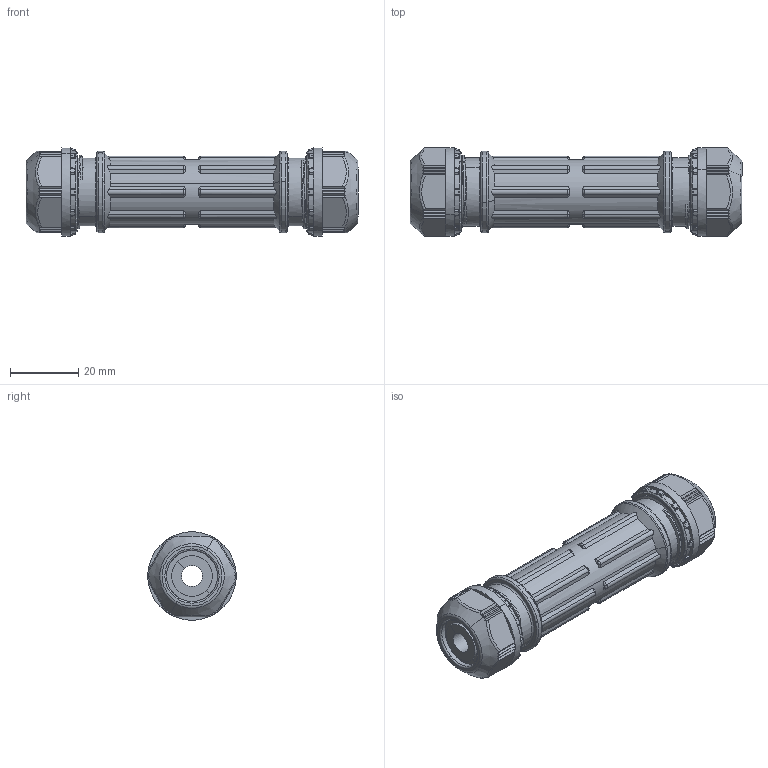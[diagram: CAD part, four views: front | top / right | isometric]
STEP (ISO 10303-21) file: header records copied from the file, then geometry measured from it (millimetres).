
FILE_DESCRIPTION(('Creo Elements/Direct Modeling STEP Export'),'2;1');
FILE_NAME('H16-0007-CL901-00_OA-QW09SRSN.stp','2016-09-29T16:17:10',(''),(''),'PTC Creo Elements/Direct Modeling STEP processor for AP214 (Solid Model)','PTC Creo Elements/Direct Modeling 19.0C 15-Aug-2015 (C) Parametric Technology GmbH','');
FILE_SCHEMA(('AUTOMOTIVE_DESIGN { 1 0 10303 214 1 1 1 1 }'));
Length unit declared in the file: millimetre
Products named in the file (6): OA-W16090_13L用_ゴムブッシュ_\X2\30B930EA
30C330C85165308A\X0\; G13-09ARS.1; OA-QW11S-3_ゴムブッシュ_\X2\30B930EA30C330C85165308
A\X0\; G13-09BRS; OA-QW13S_本体; OA-QW09SRSN
Assembly tree (7 placements, depth 3):
  OA-QW09SRSN
    OA-QW13S_本体
    G13-09BRS  x2
      OA-QW11S-3_ゴムブッシュ_\X2\30B930EA30C330C85165308
A\X0\
    G13-09ARS.1  x2
      OA-W16090_13L用_ゴムブッシュ_\X2\30B930EA
30C330C85165308A\X0\
Bounding box: 97.63 x 26 x 26 mm (x, y, z)
Volume: 24060.9 mm3; surface area: 19451.9 mm2
Topology: 5 solids, 5 shells, 1118 faces, 2936 edges, 1848 vertices
Faces by surface type: plane 592, bspline 208, cylinder 168, torus 114, cone 36
Entity records: 48572 total; most frequent: CARTESIAN_POINT 28705, ORIENTED_EDGE 4894, DIRECTION 2809, EDGE_CURVE 2447, VERTEX_POINT 1522, VECTOR 999, LINE 999, EDGE_LOOP 963
